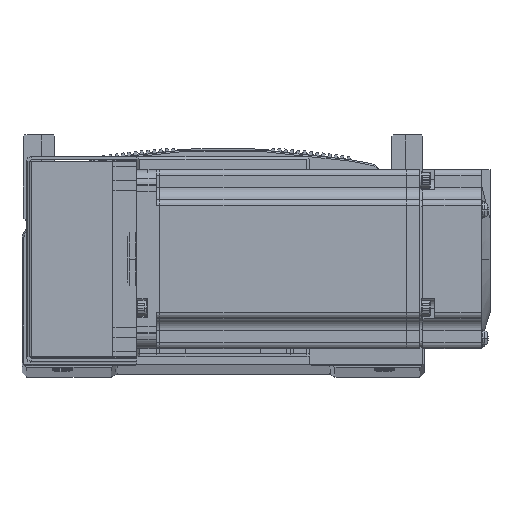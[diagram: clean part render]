
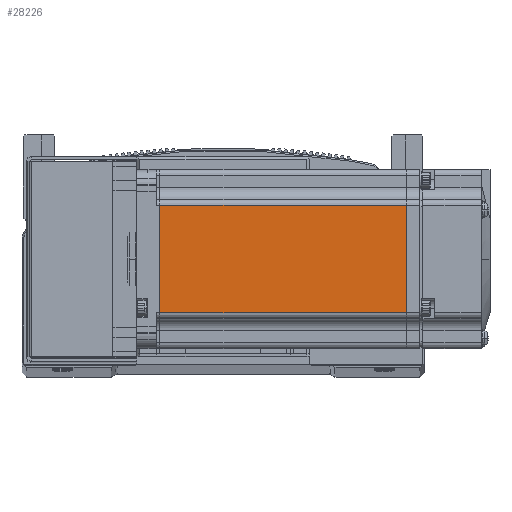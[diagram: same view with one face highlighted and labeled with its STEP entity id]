
A CAD part, top view. The second image highlights one B-rep face of the part: STEP entity #28226.
In plain terms, the highlighted planar face has unit normal (0, 0, 1) as drawn and (0, 0, -1) by its records, which use the part's own axes.
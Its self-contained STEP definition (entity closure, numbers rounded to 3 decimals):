
#14982 = AXIS2_PLACEMENT_3D ( 'NONE', #35264, #35243, #35224 ) ;
#22404 = EDGE_LOOP ( 'NONE', ( #80202, #80221, #80224, #80225 ) ) ;
#24235 = FACE_OUTER_BOUND ( 'NONE', #22404, .T. ) ;
#28226 = ADVANCED_FACE ( 'NONE', ( #24235 ), #35260, .T. ) ;
#35224 = DIRECTION ( 'NONE',  ( -1., 0., 0. ) ) ;
#35243 = DIRECTION ( 'NONE',  ( 0., 0., -1. ) ) ;
#35260 = PLANE ( 'NONE',  #14982 ) ;
#35264 = CARTESIAN_POINT ( 'NONE',  ( -6.5, 25., -30. ) ) ;
#57838 = CARTESIAN_POINT ( 'NONE',  ( -90.45, -18., -30. ) ) ;
#57870 = CARTESIAN_POINT ( 'NONE',  ( -90.45, 18., -30. ) ) ;
#57910 = CARTESIAN_POINT ( 'NONE',  ( -7.75, -18., -30. ) ) ;
#60012 = VERTEX_POINT ( 'NONE', #57838 ) ;
#60062 = VERTEX_POINT ( 'NONE', #57910 ) ;
#60086 = VERTEX_POINT ( 'NONE', #57870 ) ;
#60795 = VERTEX_POINT ( 'NONE', #82321 ) ;
#66787 = EDGE_CURVE ( 'NONE', #60062, #60012, #85745, .T. ) ;
#66831 = EDGE_CURVE ( 'NONE', #60086, #60795, #85815, .T. ) ;
#66912 = EDGE_CURVE ( 'NONE', #60795, #60062, #85827, .T. ) ;
#66950 = EDGE_CURVE ( 'NONE', #60012, #60086, #85894, .T. ) ;
#80202 = ORIENTED_EDGE ( 'NONE', *, *, #66912, .T. ) ;
#80221 = ORIENTED_EDGE ( 'NONE', *, *, #66787, .T. ) ;
#80224 = ORIENTED_EDGE ( 'NONE', *, *, #66950, .T. ) ;
#80225 = ORIENTED_EDGE ( 'NONE', *, *, #66831, .T. ) ;
#82321 = CARTESIAN_POINT ( 'NONE',  ( -7.75, 18., -30. ) ) ;
#85060 = CARTESIAN_POINT ( 'NONE',  ( -6.5, -18., -30. ) ) ;
#85061 = DIRECTION ( 'NONE',  ( -1., 0., 0. ) ) ;
#85104 = DIRECTION ( 'NONE',  ( 1., 0., 0. ) ) ;
#85118 = CARTESIAN_POINT ( 'NONE',  ( -6.5, 18., -30. ) ) ;
#85214 = DIRECTION ( 'NONE',  ( 0., -1., 0. ) ) ;
#85239 = CARTESIAN_POINT ( 'NONE',  ( -7.75, 25., -30. ) ) ;
#85277 = CARTESIAN_POINT ( 'NONE',  ( -90.45, 25., -30. ) ) ;
#85278 = DIRECTION ( 'NONE',  ( 0., 1., 0. ) ) ;
#85701 = VECTOR ( 'NONE', #85061, 1000. ) ;
#85745 = LINE ( 'NONE', #85060, #85701 ) ;
#85798 = VECTOR ( 'NONE', #85104, 1000. ) ;
#85815 = LINE ( 'NONE', #85118, #85798 ) ;
#85827 = LINE ( 'NONE', #85239, #85850 ) ;
#85850 = VECTOR ( 'NONE', #85214, 1000. ) ;
#85894 = LINE ( 'NONE', #85277, #85908 ) ;
#85908 = VECTOR ( 'NONE', #85278, 1000. ) ;
